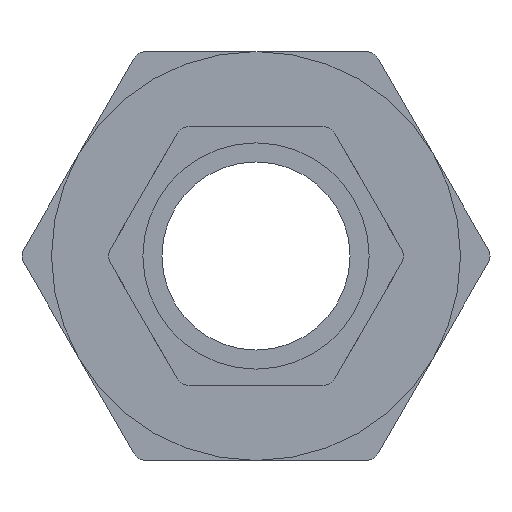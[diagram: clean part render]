
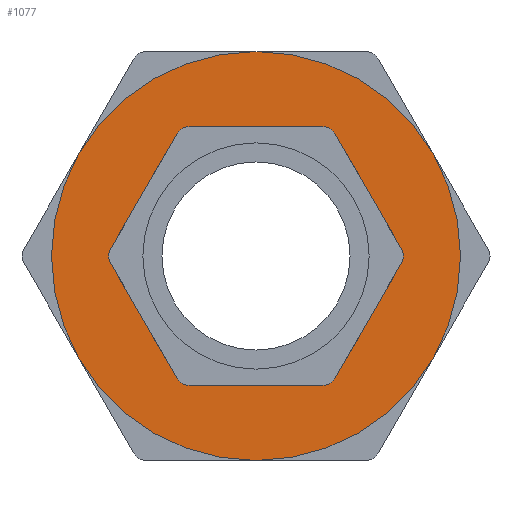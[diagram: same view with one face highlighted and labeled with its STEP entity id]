
A CAD part, left-side view. The second image highlights one B-rep face of the part: STEP entity #1077.
In plain terms, the highlighted planar face has unit normal (-1, 0, 0).
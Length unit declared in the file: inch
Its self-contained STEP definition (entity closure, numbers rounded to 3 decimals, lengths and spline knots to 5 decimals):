
#14=FACE_BOUND('',#184,.T.);
#62=CIRCLE('',#1176,1.5);
#63=CIRCLE('',#1177,0.95);
#124=FACE_OUTER_BOUND('',#183,.T.);
#183=EDGE_LOOP('',(#738));
#184=EDGE_LOOP('',(#739));
#439=VERTEX_POINT('',#1695);
#440=VERTEX_POINT('',#1697);
#556=EDGE_CURVE('',#439,#439,#62,.T.);
#557=EDGE_CURVE('',#440,#440,#63,.T.);
#738=ORIENTED_EDGE('',*,*,#556,.T.);
#739=ORIENTED_EDGE('',*,*,#557,.F.);
#975=PLANE('',#1175);
#1077=ADVANCED_FACE('',(#124,#14),#975,.T.);
#1175=AXIS2_PLACEMENT_3D('',#1694,#1366,#1367);
#1176=AXIS2_PLACEMENT_3D('',#1696,#1368,#1369);
#1177=AXIS2_PLACEMENT_3D('',#1698,#1370,#1371);
#1366=DIRECTION('center_axis',(-1.,0.,0.));
#1367=DIRECTION('ref_axis',(0.,0.,1.));
#1368=DIRECTION('center_axis',(-1.,0.,0.));
#1369=DIRECTION('ref_axis',(0.,0.,-1.));
#1370=DIRECTION('center_axis',(-1.,0.,0.));
#1371=DIRECTION('ref_axis',(0.,1.,0.));
#1694=CARTESIAN_POINT('Origin',(0.875,0.,0.));
#1695=CARTESIAN_POINT('',(0.875,0.,1.5));
#1696=CARTESIAN_POINT('Origin',(0.875,0.,0.));
#1697=CARTESIAN_POINT('',(0.875,-0.95,0.));
#1698=CARTESIAN_POINT('Origin',(0.875,0.,0.));
